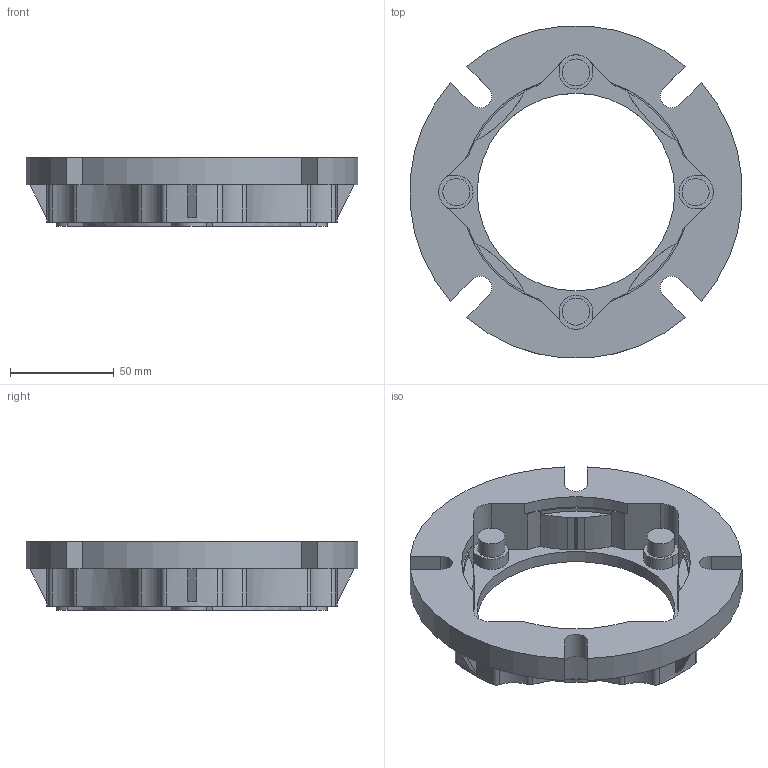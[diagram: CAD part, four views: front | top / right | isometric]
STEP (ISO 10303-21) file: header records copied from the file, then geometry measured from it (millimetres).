
FILE_DESCRIPTION(/* description */ (''),/* implementation_level */ '2;1');
FILE_NAME(/* name */ '2_FLANGIA (CAMPANA) LATERALE FB NMRV-P075',/* time_stamp */ '2025-10-09T15:11:41+02:00',/* author */ (''),/* organization */ (''),/* preprocessor_version */ 'ST-DEVELOPER v19.2',/* originating_system */ 'Rhino 8.23',/* authorisation */ '');
FILE_SCHEMA (('CONFIG_CONTROL_DESIGN'));
Length unit declared in the file: millimetre
Products named in the file (2): Document; FU 75FB-p
Bounding box: 159.49 x 159.49 x 33 mm (x, y, z)
Volume: 186239.3 mm3; surface area: 55581.5 mm2
Topology: 1 solids, 1 shells, 178 faces, 506 edges, 336 vertices
Faces by surface type: cylinder 90, plane 88
Entity records: 7591 total; most frequent: CARTESIAN_POINT 1742, ORIENTED_EDGE 1012, DIRECTION 586, EDGE_CURVE 506, AXIS2_PLACEMENT_3D 382, VERTEX_POINT 336, B_SPLINE_CURVE_WITH_KNOTS 302, TRIMMED_CURVE 200
